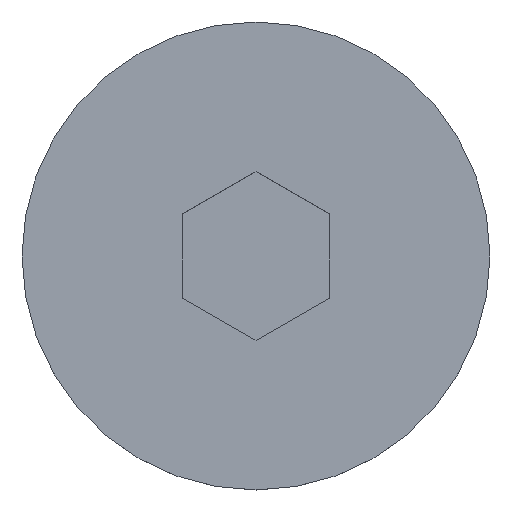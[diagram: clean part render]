
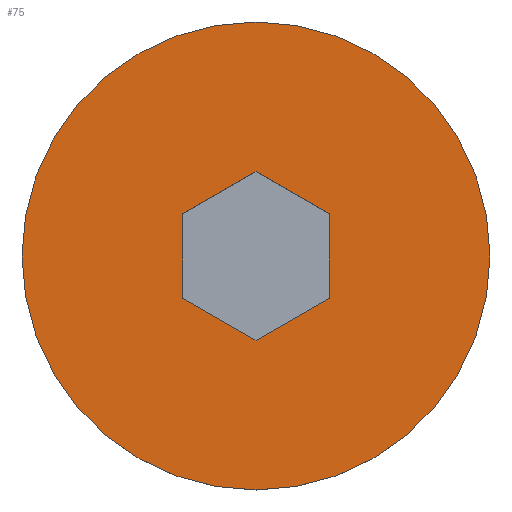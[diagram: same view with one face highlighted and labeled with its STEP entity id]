
A CAD part, top view. The second image highlights one B-rep face of the part: STEP entity #75.
In plain terms, the highlighted planar face has unit normal (0, 0, 1).
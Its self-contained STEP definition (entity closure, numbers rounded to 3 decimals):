
#4 = CARTESIAN_POINT ( 'NONE',  ( -3., 1.732, 5.22 ) ) ;
#19 = DIRECTION ( 'NONE',  ( 0., 0., -1. ) ) ;
#22 = CARTESIAN_POINT ( 'NONE',  ( 3., 1.732, 5.22 ) ) ;
#27 = CARTESIAN_POINT ( 'NONE',  ( 0., 0., 5.22 ) ) ;
#30 = VERTEX_POINT ( 'NONE', #153 ) ;
#36 = EDGE_CURVE ( 'NONE', #280, #30, #403, .T. ) ;
#44 = ORIENTED_EDGE ( 'NONE', *, *, #164, .F. ) ;
#50 = FACE_OUTER_BOUND ( 'NONE', #80, .T. ) ;
#53 = EDGE_CURVE ( 'NONE', #327, #280, #166, .T. ) ;
#54 = DIRECTION ( 'NONE',  ( 1., 0., 0. ) ) ;
#61 = DIRECTION ( 'NONE',  ( 0.866, -0.5, 0. ) ) ;
#63 = VERTEX_POINT ( 'NONE', #326 ) ;
#73 = CIRCLE ( 'NONE', #364, 9.61 ) ;
#75 = ADVANCED_FACE ( 'NONE', ( #171, #50 ), #250, .T. ) ;
#78 = EDGE_CURVE ( 'NONE', #375, #391, #87, .T. ) ;
#80 = EDGE_LOOP ( 'NONE', ( #302, #436 ) ) ;
#83 = CARTESIAN_POINT ( 'NONE',  ( -9.61, 0., 5.22 ) ) ;
#87 = LINE ( 'NONE', #435, #229 ) ;
#89 = DIRECTION ( 'NONE',  ( -1., 0., 0. ) ) ;
#90 = EDGE_LOOP ( 'NONE', ( #44, #266, #195, #366, #221, #139 ) ) ;
#91 = DIRECTION ( 'NONE',  ( 0., -1., 0. ) ) ;
#93 = CIRCLE ( 'NONE', #214, 9.61 ) ;
#106 = VERTEX_POINT ( 'NONE', #404 ) ;
#108 = LINE ( 'NONE', #413, #422 ) ;
#111 = EDGE_CURVE ( 'NONE', #308, #106, #73, .T. ) ;
#130 = DIRECTION ( 'NONE',  ( 0., 0., 1. ) ) ;
#139 = ORIENTED_EDGE ( 'NONE', *, *, #418, .F. ) ;
#150 = VECTOR ( 'NONE', #257, 1000. ) ;
#153 = CARTESIAN_POINT ( 'NONE',  ( 3., 1.732, 5.22 ) ) ;
#164 = EDGE_CURVE ( 'NONE', #30, #63, #240, .T. ) ;
#165 = AXIS2_PLACEMENT_3D ( 'NONE', #83, #130, #54 ) ;
#166 = LINE ( 'NONE', #431, #193 ) ;
#171 = FACE_BOUND ( 'NONE', #90, .T. ) ;
#193 = VECTOR ( 'NONE', #285, 1000. ) ;
#195 = ORIENTED_EDGE ( 'NONE', *, *, #53, .F. ) ;
#206 = EDGE_CURVE ( 'NONE', #106, #308, #93, .T. ) ;
#207 = VECTOR ( 'NONE', #396, 1000. ) ;
#212 = CARTESIAN_POINT ( 'NONE',  ( 3., -1.732, 5.22 ) ) ;
#214 = AXIS2_PLACEMENT_3D ( 'NONE', #27, #406, #228 ) ;
#221 = ORIENTED_EDGE ( 'NONE', *, *, #78, .F. ) ;
#228 = DIRECTION ( 'NONE',  ( -1., 0., 0. ) ) ;
#229 = VECTOR ( 'NONE', #91, 1000. ) ;
#232 = EDGE_CURVE ( 'NONE', #391, #327, #108, .T. ) ;
#240 = LINE ( 'NONE', #22, #150 ) ;
#250 = PLANE ( 'NONE',  #165 ) ;
#257 = DIRECTION ( 'NONE',  ( -0.866, 0.5, 0. ) ) ;
#266 = ORIENTED_EDGE ( 'NONE', *, *, #36, .F. ) ;
#271 = LINE ( 'NONE', #383, #405 ) ;
#280 = VERTEX_POINT ( 'NONE', #341 ) ;
#285 = DIRECTION ( 'NONE',  ( 0.866, 0.5, 0. ) ) ;
#302 = ORIENTED_EDGE ( 'NONE', *, *, #206, .F. ) ;
#308 = VERTEX_POINT ( 'NONE', #374 ) ;
#312 = CARTESIAN_POINT ( 'NONE',  ( -3., -1.732, 5.22 ) ) ;
#315 = DIRECTION ( 'NONE',  ( -0.866, -0.5, 0. ) ) ;
#326 = CARTESIAN_POINT ( 'NONE',  ( 0., 3.464, 5.22 ) ) ;
#327 = VERTEX_POINT ( 'NONE', #380 ) ;
#341 = CARTESIAN_POINT ( 'NONE',  ( 3., -1.732, 5.22 ) ) ;
#364 = AXIS2_PLACEMENT_3D ( 'NONE', #368, #19, #89 ) ;
#366 = ORIENTED_EDGE ( 'NONE', *, *, #232, .F. ) ;
#368 = CARTESIAN_POINT ( 'NONE',  ( 0., 0., 5.22 ) ) ;
#374 = CARTESIAN_POINT ( 'NONE',  ( 9.61, 0., 5.22 ) ) ;
#375 = VERTEX_POINT ( 'NONE', #4 ) ;
#380 = CARTESIAN_POINT ( 'NONE',  ( 0., -3.464, 5.22 ) ) ;
#383 = CARTESIAN_POINT ( 'NONE',  ( 0., 3.464, 5.22 ) ) ;
#391 = VERTEX_POINT ( 'NONE', #312 ) ;
#396 = DIRECTION ( 'NONE',  ( 0., 1., 0. ) ) ;
#403 = LINE ( 'NONE', #212, #207 ) ;
#404 = CARTESIAN_POINT ( 'NONE',  ( -9.61, 0., 5.22 ) ) ;
#405 = VECTOR ( 'NONE', #315, 1000. ) ;
#406 = DIRECTION ( 'NONE',  ( 0., 0., -1. ) ) ;
#413 = CARTESIAN_POINT ( 'NONE',  ( -3., -1.732, 5.22 ) ) ;
#418 = EDGE_CURVE ( 'NONE', #63, #375, #271, .T. ) ;
#422 = VECTOR ( 'NONE', #61, 1000. ) ;
#431 = CARTESIAN_POINT ( 'NONE',  ( 0., -3.464, 5.22 ) ) ;
#435 = CARTESIAN_POINT ( 'NONE',  ( -3., 1.732, 5.22 ) ) ;
#436 = ORIENTED_EDGE ( 'NONE', *, *, #111, .F. ) ;
